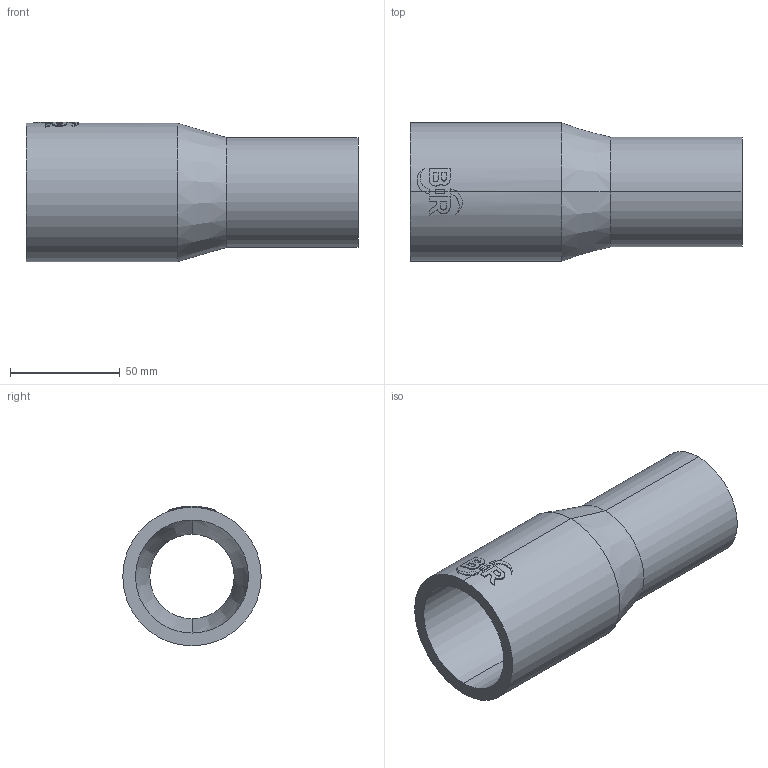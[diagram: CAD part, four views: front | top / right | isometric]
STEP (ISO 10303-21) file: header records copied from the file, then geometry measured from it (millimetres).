
FILE_DESCRIPTION (( 'STEP AP214' ), '1' );
FILE_NAME ('2323111015.STEP', '2018-07-20T10:46:47', ( '' ), ( '' ), 'SwSTEP 2.0', 'SolidWorks 2017', '' );
FILE_SCHEMA (( 'AUTOMOTIVE_DESIGN' ));
Length unit declared in the file: millimetre
Products named in the file (1): 2323111015
Bounding box: 151 x 63 x 63.46 mm (x, y, z)
Volume: 141404.3 mm3; surface area: 50668.4 mm2
Topology: 1 solids, 1 shells, 63 faces, 160 edges, 104 vertices
Faces by surface type: cylinder 31, plane 28, cone 4
Entity records: 3060 total; most frequent: CARTESIAN_POINT 851, ORIENTED_EDGE 320, DIRECTION 296, EDGE_CURVE 160, AXIS2_PLACEMENT_3D 112, VERTEX_POINT 104, LINE 72, VECTOR 72
